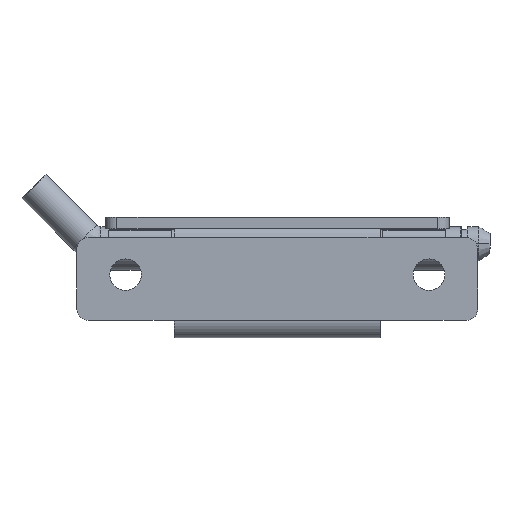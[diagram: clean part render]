
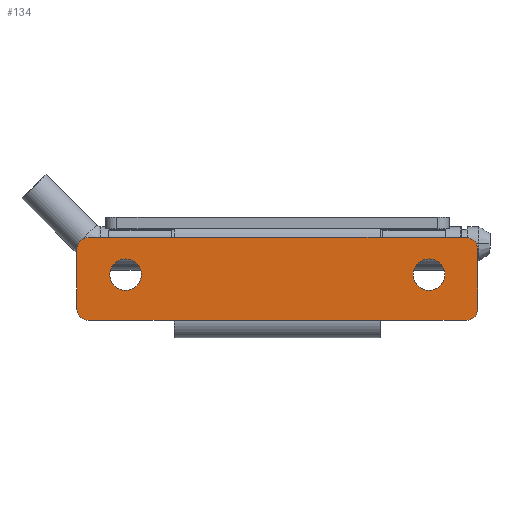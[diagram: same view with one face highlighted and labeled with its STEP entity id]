
A CAD part, left-side view. The second image highlights one B-rep face of the part: STEP entity #134.
In plain terms, the highlighted planar face has unit normal (-1, 0, 0).
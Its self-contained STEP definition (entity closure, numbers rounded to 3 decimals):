
#11=B_SPLINE_CURVE_WITH_KNOTS('',1,(#2379,#2380),.UNSPECIFIED.,.F.,.F.,
(2,2),(-34.,-23.5),.UNSPECIFIED.);
#12=B_SPLINE_CURVE_WITH_KNOTS('',1,(#2381,#2382),.UNSPECIFIED.,.F.,.F.,
(2,2),(-34.,-23.5),.UNSPECIFIED.);
#17=B_SPLINE_CURVE_WITH_KNOTS('',1,(#2391,#2392),.UNSPECIFIED.,.F.,.F.,
(2,2),(-104.,-89.),.UNSPECIFIED.);
#49=B_SPLINE_CURVE_WITH_KNOTS('',1,(#2573,#2574),.UNSPECIFIED.,.F.,.F.,
(2,2),(-53.,-38.),.UNSPECIFIED.);
#50=B_SPLINE_CURVE_WITH_KNOTS('',1,(#2575,#2576),.UNSPECIFIED.,.F.,.F.,
(2,2),(-89.,-53.),.UNSPECIFIED.);
#51=B_SPLINE_CURVE_WITH_KNOTS('',1,(#2577,#2578,#2579,#2580),
 .UNSPECIFIED.,.F.,.F.,(2,1,1,2),(-68.,-53.,-17.,-2.),.UNSPECIFIED.);
#104=FACE_BOUND('',#303,.T.);
#105=FACE_BOUND('',#304,.T.);
#134=ADVANCED_FACE('',(#216,#104,#105),#1286,.T.);
#216=FACE_OUTER_BOUND('',#302,.T.);
#302=EDGE_LOOP('',(#462,#463,#464,#465,#466,#467,#468,#469,#470,#471));
#303=EDGE_LOOP('',(#472,#473));
#304=EDGE_LOOP('',(#474,#475));
#462=ORIENTED_EDGE('',*,*,#890,.F.);
#463=ORIENTED_EDGE('',*,*,#834,.T.);
#464=ORIENTED_EDGE('',*,*,#809,.F.);
#465=ORIENTED_EDGE('',*,*,#836,.T.);
#466=ORIENTED_EDGE('',*,*,#888,.F.);
#467=ORIENTED_EDGE('',*,*,#889,.F.);
#468=ORIENTED_EDGE('',*,*,#814,.F.);
#469=ORIENTED_EDGE('',*,*,#838,.T.);
#470=ORIENTED_EDGE('',*,*,#808,.T.);
#471=ORIENTED_EDGE('',*,*,#832,.T.);
#472=ORIENTED_EDGE('',*,*,#893,.F.);
#473=ORIENTED_EDGE('',*,*,#818,.F.);
#474=ORIENTED_EDGE('',*,*,#823,.T.);
#475=ORIENTED_EDGE('',*,*,#898,.T.);
#808=EDGE_CURVE('',#1191,#1190,#11,.T.);
#809=EDGE_CURVE('',#1195,#1194,#12,.T.);
#814=EDGE_CURVE('',#1203,#1234,#17,.T.);
#818=EDGE_CURVE('',#1185,#1238,#1024,.T.);
#823=EDGE_CURVE('',#1188,#1241,#1027,.T.);
#832=EDGE_CURVE('',#1190,#1192,#1030,.T.);
#834=EDGE_CURVE('',#1193,#1194,#1032,.T.);
#836=EDGE_CURVE('',#1195,#1202,#1034,.T.);
#838=EDGE_CURVE('',#1203,#1191,#1036,.T.);
#888=EDGE_CURVE('',#1235,#1202,#49,.T.);
#889=EDGE_CURVE('',#1234,#1235,#50,.T.);
#890=EDGE_CURVE('',#1193,#1192,#51,.T.);
#893=EDGE_CURVE('',#1238,#1185,#1054,.T.);
#898=EDGE_CURVE('',#1241,#1188,#1057,.T.);
#1024=TRIMMED_CURVE($,#1106,(#2400),(#2401),.T.,.CARTESIAN.);
#1027=TRIMMED_CURVE($,#1109,(#2415),(#2416),.T.,.CARTESIAN.);
#1030=TRIMMED_CURVE($,#1112,(#2438),(#2439),.T.,.CARTESIAN.);
#1032=TRIMMED_CURVE($,#1114,(#2444),(#2445),.T.,.CARTESIAN.);
#1034=TRIMMED_CURVE($,#1116,(#2450),(#2451),.T.,.CARTESIAN.);
#1036=TRIMMED_CURVE($,#1118,(#2456),(#2457),.T.,.CARTESIAN.);
#1054=TRIMMED_CURVE($,#1136,(#2588),(#2589),.T.,.CARTESIAN.);
#1057=TRIMMED_CURVE($,#1139,(#2603),(#2604),.T.,.CARTESIAN.);
#1106=CIRCLE('',#1531,2.75);
#1109=CIRCLE('',#1534,2.75);
#1112=CIRCLE('',#1537,2.);
#1114=CIRCLE('',#1539,2.);
#1116=CIRCLE('',#1541,2.);
#1118=CIRCLE('',#1543,2.);
#1136=CIRCLE('',#1561,2.75);
#1139=CIRCLE('',#1564,2.75);
#1185=VERTEX_POINT('',#2320);
#1188=VERTEX_POINT('',#2323);
#1190=VERTEX_POINT('',#2325);
#1191=VERTEX_POINT('',#2326);
#1192=VERTEX_POINT('',#2327);
#1193=VERTEX_POINT('',#2328);
#1194=VERTEX_POINT('',#2329);
#1195=VERTEX_POINT('',#2330);
#1202=VERTEX_POINT('',#2337);
#1203=VERTEX_POINT('',#2338);
#1234=VERTEX_POINT('',#2369);
#1235=VERTEX_POINT('',#2370);
#1238=VERTEX_POINT('',#2373);
#1241=VERTEX_POINT('',#2376);
#1286=PLANE('',#1499);
#1499=AXIS2_PLACEMENT_3D('',#2207,#1685,$);
#1531=AXIS2_PLACEMENT_3D($,#2399,#1717,#1718);
#1534=AXIS2_PLACEMENT_3D($,#2414,#1723,#1724);
#1537=AXIS2_PLACEMENT_3D($,#2437,#1729,#1730);
#1539=AXIS2_PLACEMENT_3D($,#2443,#1733,#1734);
#1541=AXIS2_PLACEMENT_3D($,#2449,#1737,#1738);
#1543=AXIS2_PLACEMENT_3D($,#2455,#1741,#1742);
#1561=AXIS2_PLACEMENT_3D($,#2587,#1777,#1778);
#1564=AXIS2_PLACEMENT_3D($,#2602,#1783,#1784);
#1685=DIRECTION('',(-1.,0.,0.));
#1717=DIRECTION('',(-1.,0.,0.));
#1718=DIRECTION('',(0.,-1.,0.));
#1723=DIRECTION('',(1.,0.,0.));
#1724=DIRECTION('',(0.,1.,0.));
#1729=DIRECTION('',(-1.,0.,0.));
#1730=DIRECTION('',(0.,-1.,0.));
#1733=DIRECTION('',(-1.,0.,0.));
#1734=DIRECTION('',(0.,0.,1.));
#1737=DIRECTION('',(-1.,0.,0.));
#1738=DIRECTION('',(0.,1.,0.));
#1741=DIRECTION('',(-1.,0.,0.));
#1742=DIRECTION('',(0.,0.,-1.));
#1777=DIRECTION('',(-1.,0.,0.));
#1778=DIRECTION('',(0.,1.,0.));
#1783=DIRECTION('',(1.,0.,0.));
#1784=DIRECTION('',(0.,-1.,0.));
#2207=CARTESIAN_POINT('',(-8.491,-35.,-14.74));
#2320=CARTESIAN_POINT('',(-8.491,23.75,-3.74));
#2323=CARTESIAN_POINT('',(-8.491,-23.75,-3.74));
#2325=CARTESIAN_POINT('',(-8.491,-35.,0.76));
#2326=CARTESIAN_POINT('',(-8.491,-35.,-9.74));
#2327=CARTESIAN_POINT('',(-8.491,-33.,2.76));
#2328=CARTESIAN_POINT('',(-8.491,33.,2.76));
#2329=CARTESIAN_POINT('',(-8.491,35.,0.76));
#2330=CARTESIAN_POINT('',(-8.491,35.,-9.74));
#2337=CARTESIAN_POINT('',(-8.491,33.,-11.74));
#2338=CARTESIAN_POINT('',(-8.491,-33.,-11.74));
#2369=CARTESIAN_POINT('',(-8.491,-18.,-11.74));
#2370=CARTESIAN_POINT('',(-8.491,18.,-11.74));
#2373=CARTESIAN_POINT('',(-8.491,29.25,-3.74));
#2376=CARTESIAN_POINT('',(-8.491,-29.25,-3.74));
#2379=CARTESIAN_POINT('',(-8.491,-35.,-9.74));
#2380=CARTESIAN_POINT('',(-8.491,-35.,0.76));
#2381=CARTESIAN_POINT('',(-8.491,35.,-9.74));
#2382=CARTESIAN_POINT('',(-8.491,35.,0.76));
#2391=CARTESIAN_POINT('',(-8.491,-33.,-11.74));
#2392=CARTESIAN_POINT('',(-8.491,-18.,-11.74));
#2399=CARTESIAN_POINT('',(-8.491,26.5,-3.74));
#2400=CARTESIAN_POINT('',(-8.491,23.75,-3.74));
#2401=CARTESIAN_POINT('',(-8.491,29.25,-3.74));
#2414=CARTESIAN_POINT('',(-8.491,-26.5,-3.74));
#2415=CARTESIAN_POINT('',(-8.491,-23.75,-3.74));
#2416=CARTESIAN_POINT('',(-8.491,-29.25,-3.74));
#2437=CARTESIAN_POINT('',(-8.491,-33.,0.76));
#2438=CARTESIAN_POINT('',(-8.491,-35.,0.76));
#2439=CARTESIAN_POINT('',(-8.491,-33.,2.76));
#2443=CARTESIAN_POINT('',(-8.491,33.,0.76));
#2444=CARTESIAN_POINT('',(-8.491,33.,2.76));
#2445=CARTESIAN_POINT('',(-8.491,35.,0.76));
#2449=CARTESIAN_POINT('',(-8.491,33.,-9.74));
#2450=CARTESIAN_POINT('',(-8.491,35.,-9.74));
#2451=CARTESIAN_POINT('',(-8.491,33.,-11.74));
#2455=CARTESIAN_POINT('',(-8.491,-33.,-9.74));
#2456=CARTESIAN_POINT('',(-8.491,-33.,-11.74));
#2457=CARTESIAN_POINT('',(-8.491,-35.,-9.74));
#2573=CARTESIAN_POINT('',(-8.491,18.,-11.74));
#2574=CARTESIAN_POINT('',(-8.491,33.,-11.74));
#2575=CARTESIAN_POINT('',(-8.491,-18.,-11.74));
#2576=CARTESIAN_POINT('',(-8.491,18.,-11.74));
#2577=CARTESIAN_POINT('',(-8.491,33.,2.76));
#2578=CARTESIAN_POINT('',(-8.491,18.,2.76));
#2579=CARTESIAN_POINT('',(-8.491,-18.,2.76));
#2580=CARTESIAN_POINT('',(-8.491,-33.,2.76));
#2587=CARTESIAN_POINT('',(-8.491,26.5,-3.74));
#2588=CARTESIAN_POINT('',(-8.491,29.25,-3.74));
#2589=CARTESIAN_POINT('',(-8.491,23.75,-3.74));
#2602=CARTESIAN_POINT('',(-8.491,-26.5,-3.74));
#2603=CARTESIAN_POINT('',(-8.491,-29.25,-3.74));
#2604=CARTESIAN_POINT('',(-8.491,-23.75,-3.74));
